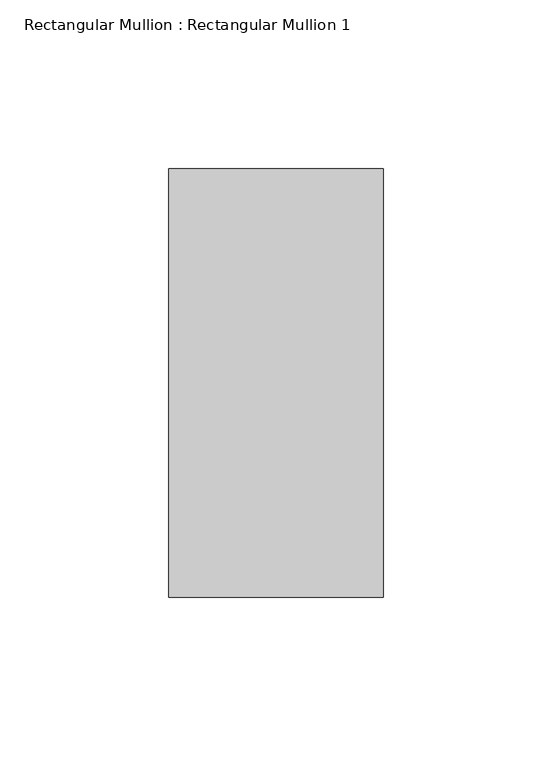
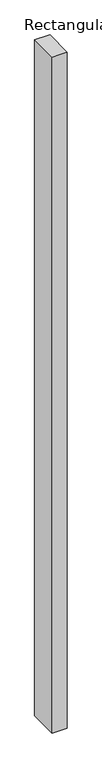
"""IFC4 building model written with IfcOpenShell, lengths in millimetres: member geometry, Rectangular Mullion : Rectangular Mullion 1."""

from ifc_helpers import new_model, si_unit, frame, origin, place, context, project, spatial, polyline, outline, extrude, source, transform, mapped, element, save


def rectangular_mullion_rectangular_mullion_1_86471573(model_context):
    return source(origin(), model_context, "Body", "SweptSolid", [
        extrude(outline(polyline([(0.0, 63.5), (0.0, -63.5), (-63.5, -63.5), (-63.5, 63.5), (0.0, 63.5)])), frame((0.0, 0.0, -3000.0), z_axis=(0.0, 0.0, 1.0), x_axis=(1.0, 0.0, 0.0)), (0.0, 0.0, 1.0), 3000.0),
    ])


if __name__ == "__main__":
    model = new_model("IFC4")
    model_context = context("Model", 3, world=origin())
    ifc_project = project(units=[si_unit("LENGTHUNIT", "METRE", prefix="MILLI")], contexts=[model_context])
    site = spatial("IfcSite", under=ifc_project)
    building = spatial("IfcBuilding", under=site)
    placement = place(None, origin())
    rectangular_mullion_rectangular_mullion_1_shape = rectangular_mullion_rectangular_mullion_1_86471573(model_context)
    element("IfcMember", 1, ObjectType="Rectangular Mullion : Rectangular Mullion 1", at=placement, inside=building, context=model_context, shape_type="MappedRepresentation", body=[
        mapped(rectangular_mullion_rectangular_mullion_1_shape, transform((0.0, 0.0, 0.0), x_axis=(1.0, 0.0, 0.0), y_axis=(0.0, 1.0, 0.0), z_axis=(0.0, 0.0, 1.0))),
    ])
    save(model, "model.ifc")
